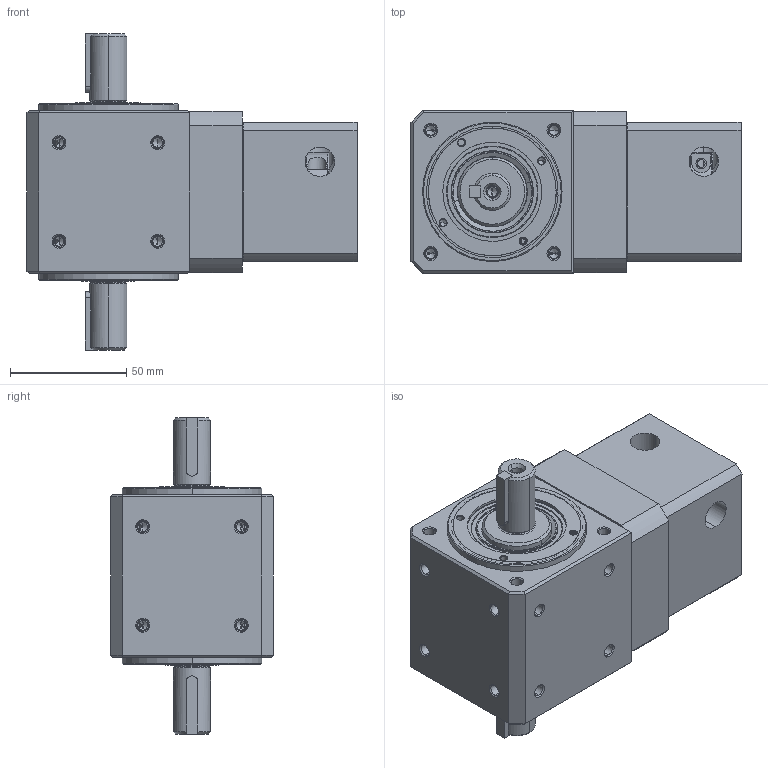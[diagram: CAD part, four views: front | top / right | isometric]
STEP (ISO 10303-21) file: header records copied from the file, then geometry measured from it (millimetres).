
FILE_DESCRIPTION (( 'STEP AP203' ), '1' );
FILE_NAME ('WS70DSF-2+GNP60L1-14-50-70-M5.STEP', '2015-03-20T08:40:49', ( ' ' ), ( '' ), 'SwSTEP 2.0', 'SolidWorks 2012', '' );
FILE_SCHEMA (( 'CONFIG_CONTROL_DESIGN' ));
Length unit declared in the file: millimetre
Products named in the file (1): WS70DSF-2+GNP60L1-14-50-70-M5
Bounding box: 142 x 70 x 136 mm (x, y, z)
Volume: 415433.1 mm3; surface area: 129508.8 mm2
Topology: 12 solids, 12 shells, 1029 faces, 2352 edges, 1361 vertices
Faces by surface type: cone 440, cylinder 355, plane 185, torus 49
Entity records: 29349 total; most frequent: CARTESIAN_POINT 5632, DIRECTION 5476, ORIENTED_EDGE 4536, EDGE_CURVE 2268, AXIS2_PLACEMENT_3D 2247, VERTEX_POINT 1361, CIRCLE 1217, EDGE_LOOP 1211
